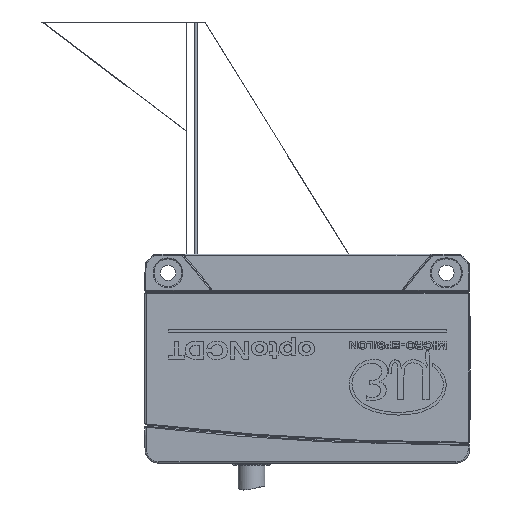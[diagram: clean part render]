
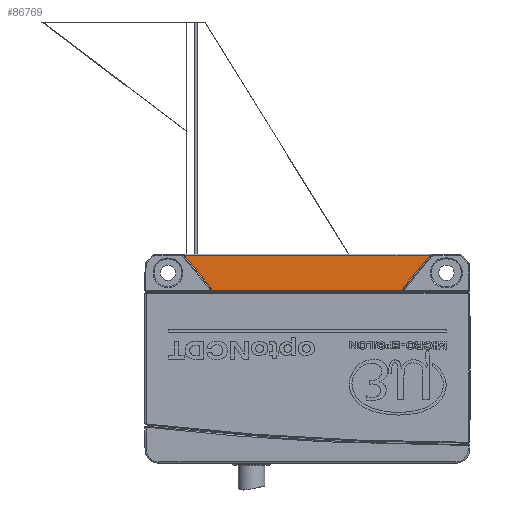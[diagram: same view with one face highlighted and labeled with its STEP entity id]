
A CAD part, front view. The second image highlights one B-rep face of the part: STEP entity #86769.
In plain terms, the highlighted planar face has unit normal (0, -1, 0.018).
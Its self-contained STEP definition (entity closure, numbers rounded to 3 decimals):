
#1839 = VERTEX_POINT ( 'NONE', #51417 ) ;
#11927 = VERTEX_POINT ( 'NONE', #35166 ) ;
#13877 = CARTESIAN_POINT ( 'NONE',  ( 20.648, -15.502, 0.654 ) ) ;
#14244 = EDGE_CURVE ( 'NONE', #1839, #95271, #15486, .T. ) ;
#15486 = LINE ( 'NONE', #72051, #99595 ) ;
#18322 = VERTEX_POINT ( 'NONE', #42294 ) ;
#20296 = CARTESIAN_POINT ( 'NONE',  ( -20.8, -15.51, 0.197 ) ) ;
#21433 = DIRECTION ( 'NONE',  ( 1., 0., 0. ) ) ;
#22520 = CARTESIAN_POINT ( 'NONE',  ( 20.705, -15.499, 0.805 ) ) ;
#22802 = DIRECTION ( 'NONE',  ( 0., -1., 0.017 ) ) ;
#24728 =( BOUNDED_CURVE ( )  B_SPLINE_CURVE ( 3, ( #59005, #13877, #22520, #85618 ),
 .UNSPECIFIED., .F., .T. ) 
 B_SPLINE_CURVE_WITH_KNOTS ( ( 4, 4 ),
 ( 4.73, 5.411 ),
 .UNSPECIFIED. ) 
 CURVE ( )  GEOMETRIC_REPRESENTATION_ITEM ( )  RATIONAL_B_SPLINE_CURVE ( ( 1., 0.962, 0.962, 1. ) ) 
 REPRESENTATION_ITEM ( '' )  );
#25448 = ORIENTED_EDGE ( 'NONE', *, *, #86890, .T. ) ;
#25998 = ORIENTED_EDGE ( 'NONE', *, *, #86674, .T. ) ;
#28667 = LINE ( 'NONE', #105203, #41276 ) ;
#35166 = CARTESIAN_POINT ( 'NONE',  ( 26.495, -15.379, 7.705 ) ) ;
#37323 = CARTESIAN_POINT ( 'NONE',  ( -20.64, -15.51, 0.197 ) ) ;
#37483 = ORIENTED_EDGE ( 'NONE', *, *, #62494, .T. ) ;
#40310 = ORIENTED_EDGE ( 'NONE', *, *, #59657, .T. ) ;
#41276 = VECTOR ( 'NONE', #51514, 1000. ) ;
#42294 = CARTESIAN_POINT ( 'NONE',  ( -20.809, -15.497, 0.929 ) ) ;
#42783 = VERTEX_POINT ( 'NONE', #101198 ) ;
#51271 =( BOUNDED_CURVE ( )  B_SPLINE_CURVE ( 3, ( #70199, #53317, #71737, #96812 ),
 .UNSPECIFIED., .F., .F. ) 
 B_SPLINE_CURVE_WITH_KNOTS ( ( 4, 4 ),
 ( 0.873, 1.553 ),
 .UNSPECIFIED. ) 
 CURVE ( )  GEOMETRIC_REPRESENTATION_ITEM ( )  RATIONAL_B_SPLINE_CURVE ( ( 1., 0.962, 0.962, 1. ) ) 
 REPRESENTATION_ITEM ( '' )  );
#51397 = CARTESIAN_POINT ( 'NONE',  ( 20.64, -15.51, 0.197 ) ) ;
#51417 = CARTESIAN_POINT ( 'NONE',  ( -20.645, -15.505, 0.492 ) ) ;
#51514 = DIRECTION ( 'NONE',  ( -1., 0., 0. ) ) ;
#52868 = DIRECTION ( 'NONE',  ( 0.017, -0.017, -1. ) ) ;
#53317 = CARTESIAN_POINT ( 'NONE',  ( -20.705, -15.499, 0.805 ) ) ;
#53457 = LINE ( 'NONE', #20296, #91327 ) ;
#55071 = VECTOR ( 'NONE', #105873, 1000. ) ;
#58543 = ORIENTED_EDGE ( 'NONE', *, *, #82458, .T. ) ;
#58865 = LINE ( 'NONE', #99607, #72909 ) ;
#59005 = CARTESIAN_POINT ( 'NONE',  ( 20.645, -15.505, 0.492 ) ) ;
#59657 = EDGE_CURVE ( 'NONE', #11927, #102233, #28667, .T. ) ;
#62494 = EDGE_CURVE ( 'NONE', #95271, #111106, #53457, .T. ) ;
#70199 = CARTESIAN_POINT ( 'NONE',  ( -20.809, -15.497, 0.929 ) ) ;
#70647 = CARTESIAN_POINT ( 'NONE',  ( 20.809, -15.497, 0.929 ) ) ;
#71737 = CARTESIAN_POINT ( 'NONE',  ( -20.648, -15.502, 0.654 ) ) ;
#72051 = CARTESIAN_POINT ( 'NONE',  ( -20.6, -15.55, -2.097 ) ) ;
#72778 = ORIENTED_EDGE ( 'NONE', *, *, #107705, .T. ) ;
#72909 = VECTOR ( 'NONE', #91021, 1000. ) ;
#73812 = EDGE_CURVE ( 'NONE', #42783, #93533, #24728, .T. ) ;
#74575 = CARTESIAN_POINT ( 'NONE',  ( -19.313, -15.528, -0.853 ) ) ;
#76519 = PLANE ( 'NONE',  #83782 ) ;
#78914 = LINE ( 'NONE', #115310, #55071 ) ;
#82458 = EDGE_CURVE ( 'NONE', #18322, #1839, #51271, .T. ) ;
#83782 = AXIS2_PLACEMENT_3D ( 'NONE', #94512, #22802, #85541 ) ;
#85541 = DIRECTION ( 'NONE',  ( 0., 0.017, 1. ) ) ;
#85618 = CARTESIAN_POINT ( 'NONE',  ( 20.809, -15.497, 0.929 ) ) ;
#86674 = EDGE_CURVE ( 'NONE', #102233, #18322, #101376, .T. ) ;
#86769 = ADVANCED_FACE ( 'NONE', ( #99984 ), #76519, .T. ) ;
#86890 = EDGE_CURVE ( 'NONE', #111106, #42783, #78914, .T. ) ;
#87651 = EDGE_LOOP ( 'NONE', ( #90571, #37483, #25448, #104874, #72778, #40310, #25998, #58543 ) ) ;
#90571 = ORIENTED_EDGE ( 'NONE', *, *, #14244, .T. ) ;
#91021 = DIRECTION ( 'NONE',  ( 0.643, 0.013, 0.766 ) ) ;
#91327 = VECTOR ( 'NONE', #21433, 1000. ) ;
#93533 = VERTEX_POINT ( 'NONE', #70647 ) ;
#94512 = CARTESIAN_POINT ( 'NONE',  ( -20.8, -15.55, -2.1 ) ) ;
#95271 = VERTEX_POINT ( 'NONE', #37323 ) ;
#96812 = CARTESIAN_POINT ( 'NONE',  ( -20.645, -15.505, 0.492 ) ) ;
#99595 = VECTOR ( 'NONE', #52868, 1000. ) ;
#99607 = CARTESIAN_POINT ( 'NONE',  ( 2.128, -15.886, -21.333 ) ) ;
#99984 = FACE_OUTER_BOUND ( 'NONE', #87651, .T. ) ;
#101198 = CARTESIAN_POINT ( 'NONE',  ( 20.645, -15.505, 0.492 ) ) ;
#101376 = LINE ( 'NONE', #74575, #107028 ) ;
#102233 = VERTEX_POINT ( 'NONE', #108822 ) ;
#104874 = ORIENTED_EDGE ( 'NONE', *, *, #73812, .T. ) ;
#105203 = CARTESIAN_POINT ( 'NONE',  ( -26.808, -15.379, 7.705 ) ) ;
#105873 = DIRECTION ( 'NONE',  ( 0.017, 0.017, 1. ) ) ;
#107028 = VECTOR ( 'NONE', #109872, 1000. ) ;
#107705 = EDGE_CURVE ( 'NONE', #93533, #11927, #58865, .T. ) ;
#108822 = CARTESIAN_POINT ( 'NONE',  ( -26.495, -15.379, 7.705 ) ) ;
#109872 = DIRECTION ( 'NONE',  ( 0.643, -0.013, -0.766 ) ) ;
#111106 = VERTEX_POINT ( 'NONE', #51397 ) ;
#115310 = CARTESIAN_POINT ( 'NONE',  ( 20.587, -15.563, -2.822 ) ) ;
